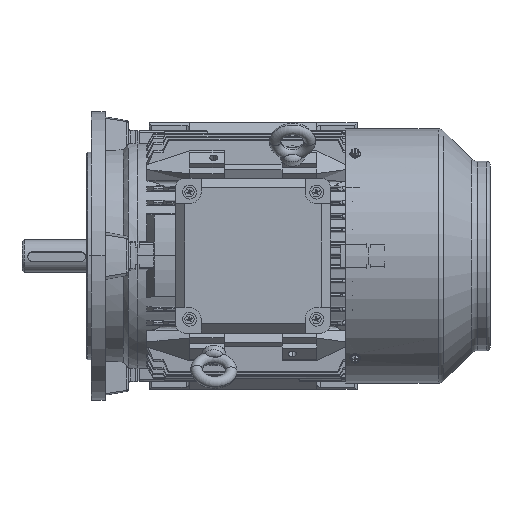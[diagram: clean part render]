
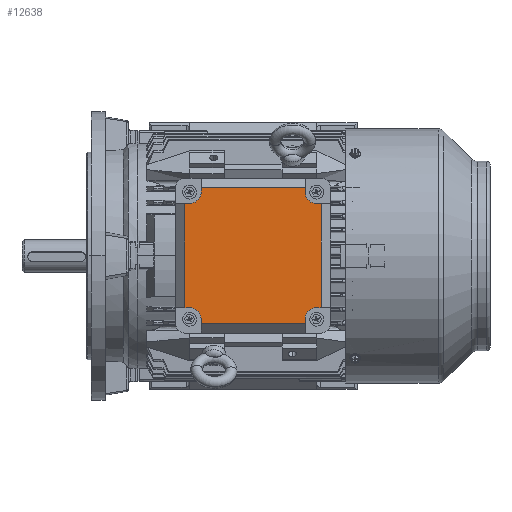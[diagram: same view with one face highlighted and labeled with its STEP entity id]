
A CAD part, top view. The second image highlights one B-rep face of the part: STEP entity #12638.
In plain terms, the highlighted planar face has unit normal (0, 0, 1).
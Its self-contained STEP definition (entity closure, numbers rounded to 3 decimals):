
#746 = LINE ( 'NONE', #131503, #126554 ) ;
#1313 = DIRECTION ( 'NONE',  ( 0., -1., 0. ) ) ;
#3126 = CARTESIAN_POINT ( 'NONE',  ( 93.235, 48.904, 176.622 ) ) ;
#4324 = CARTESIAN_POINT ( 'NONE',  ( -24.764, -41.098, 176.622 ) ) ;
#7966 = CARTESIAN_POINT ( 'NONE',  ( 79.236, -55.096, 176.622 ) ) ;
#10208 = VERTEX_POINT ( 'NONE', #4324 ) ;
#10461 = VECTOR ( 'NONE', #38898, 1000. ) ;
#10879 = CIRCLE ( 'NONE', #38480, 10. ) ;
#11013 = CARTESIAN_POINT ( 'NONE',  ( 89.234, 58.904, 176.622 ) ) ;
#11132 = ORIENTED_EDGE ( 'NONE', *, *, #104557, .F. ) ;
#12157 = CARTESIAN_POINT ( 'NONE',  ( 79.236, -51.096, 176.622 ) ) ;
#12638 = ADVANCED_FACE ( 'NONE', ( #91645 ), #49710, .T. ) ;
#13975 = LINE ( 'NONE', #3126, #108281 ) ;
#15392 = VERTEX_POINT ( 'NONE', #90190 ) ;
#15999 = CARTESIAN_POINT ( 'NONE',  ( -10.766, 62.902, 176.622 ) ) ;
#20741 = VECTOR ( 'NONE', #86647, 1000. ) ;
#21063 = CARTESIAN_POINT ( 'NONE',  ( -10.766, 58.902, 176.622 ) ) ;
#22721 = ORIENTED_EDGE ( 'NONE', *, *, #138395, .T. ) ;
#23781 = CARTESIAN_POINT ( 'NONE',  ( -20.765, 48.902, 176.622 ) ) ;
#24199 = DIRECTION ( 'NONE',  ( 0., -1., 0. ) ) ;
#25970 = AXIS2_PLACEMENT_3D ( 'NONE', #137104, #137813, #113326 ) ;
#26367 = VERTEX_POINT ( 'NONE', #120228 ) ;
#27338 = DIRECTION ( 'NONE',  ( -1., 0., 0. ) ) ;
#27623 = ORIENTED_EDGE ( 'NONE', *, *, #31238, .F. ) ;
#28071 = CARTESIAN_POINT ( 'NONE',  ( -20.764, -41.098, 176.622 ) ) ;
#28086 = EDGE_CURVE ( 'NONE', #77479, #32688, #104669, .T. ) ;
#29367 = AXIS2_PLACEMENT_3D ( 'NONE', #118217, #116780, #83511 ) ;
#30713 = VERTEX_POINT ( 'NONE', #84218 ) ;
#31238 = EDGE_CURVE ( 'NONE', #55663, #74462, #746, .T. ) ;
#31705 = VERTEX_POINT ( 'NONE', #15999 ) ;
#32474 = VERTEX_POINT ( 'NONE', #49241 ) ;
#32688 = VERTEX_POINT ( 'NONE', #85858 ) ;
#35001 = CARTESIAN_POINT ( 'NONE',  ( 79.236, -51.096, 176.622 ) ) ;
#35949 = LINE ( 'NONE', #12157, #41007 ) ;
#38480 = AXIS2_PLACEMENT_3D ( 'NONE', #125373, #62472, #71162 ) ;
#38711 = EDGE_CURVE ( 'NONE', #26367, #31705, #67321, .T. ) ;
#38898 = DIRECTION ( 'NONE',  ( 0., -1., 0. ) ) ;
#38985 = VECTOR ( 'NONE', #111929, 1000. ) ;
#39063 = EDGE_CURVE ( 'NONE', #30713, #121235, #65747, .T. ) ;
#39614 = LINE ( 'NONE', #28071, #40449 ) ;
#40449 = VECTOR ( 'NONE', #27338, 1000. ) ;
#40710 = CARTESIAN_POINT ( 'NONE',  ( -24.765, 48.902, 176.622 ) ) ;
#41007 = VECTOR ( 'NONE', #1313, 1000. ) ;
#44667 = VERTEX_POINT ( 'NONE', #129315 ) ;
#44949 = CARTESIAN_POINT ( 'NONE',  ( -10.766, 62.902, 176.622 ) ) ;
#47178 = DIRECTION ( 'NONE',  ( 0., 1., 0. ) ) ;
#48839 = CARTESIAN_POINT ( 'NONE',  ( 89.236, -41.096, 176.622 ) ) ;
#49241 = CARTESIAN_POINT ( 'NONE',  ( 89.235, 48.904, 176.622 ) ) ;
#49710 = PLANE ( 'NONE',  #25970 ) ;
#50105 = VERTEX_POINT ( 'NONE', #92176 ) ;
#54346 = DIRECTION ( 'NONE',  ( 0., 0., 1. ) ) ;
#55263 = LINE ( 'NONE', #99335, #134786 ) ;
#55663 = VERTEX_POINT ( 'NONE', #40710 ) ;
#55751 = VECTOR ( 'NONE', #127794, 1000. ) ;
#57165 = DIRECTION ( 'NONE',  ( -1., 0., 0. ) ) ;
#62472 = DIRECTION ( 'NONE',  ( 0., 0., 1. ) ) ;
#62887 = EDGE_CURVE ( 'NONE', #26367, #50105, #138546, .T. ) ;
#62906 = EDGE_CURVE ( 'NONE', #15392, #10208, #39614, .T. ) ;
#63443 = CARTESIAN_POINT ( 'NONE',  ( 79.234, 58.904, 176.622 ) ) ;
#65747 = LINE ( 'NONE', #86693, #38985 ) ;
#67035 = AXIS2_PLACEMENT_3D ( 'NONE', #11013, #54346, #111365 ) ;
#67321 = LINE ( 'NONE', #44949, #135687 ) ;
#68807 = AXIS2_PLACEMENT_3D ( 'NONE', #129074, #84289, #107412 ) ;
#70024 = LINE ( 'NONE', #125635, #88648 ) ;
#70175 = CARTESIAN_POINT ( 'NONE',  ( 89.235, 48.904, 176.622 ) ) ;
#71162 = DIRECTION ( 'NONE',  ( -1., 0., 0. ) ) ;
#71578 = LINE ( 'NONE', #70175, #93133 ) ;
#73053 = CARTESIAN_POINT ( 'NONE',  ( -10.764, -55.098, 176.622 ) ) ;
#74462 = VERTEX_POINT ( 'NONE', #23781 ) ;
#75329 = ORIENTED_EDGE ( 'NONE', *, *, #89082, .T. ) ;
#75656 = ORIENTED_EDGE ( 'NONE', *, *, #113419, .F. ) ;
#76528 = CARTESIAN_POINT ( 'NONE',  ( 79.236, -55.096, 176.622 ) ) ;
#77479 = VERTEX_POINT ( 'NONE', #73053 ) ;
#80333 = EDGE_CURVE ( 'NONE', #32474, #44667, #71578, .T. ) ;
#82064 = ORIENTED_EDGE ( 'NONE', *, *, #39063, .F. ) ;
#82864 = EDGE_LOOP ( 'NONE', ( #135134, #86452, #75656, #105020, #27623, #22721, #133142, #101554, #135717, #75329, #11132, #120100, #82064, #130165, #135093, #94689 ) ) ;
#83511 = DIRECTION ( 'NONE',  ( -1., 0., 0. ) ) ;
#83969 = LINE ( 'NONE', #76528, #20741 ) ;
#84218 = CARTESIAN_POINT ( 'NONE',  ( 93.236, -41.096, 176.622 ) ) ;
#84289 = DIRECTION ( 'NONE',  ( 0., 0., 1. ) ) ;
#85814 = EDGE_CURVE ( 'NONE', #74462, #107944, #10879, .T. ) ;
#85858 = CARTESIAN_POINT ( 'NONE',  ( -10.764, -51.098, 176.622 ) ) ;
#86452 = ORIENTED_EDGE ( 'NONE', *, *, #38711, .T. ) ;
#86647 = DIRECTION ( 'NONE',  ( 1., 0., 0. ) ) ;
#86693 = CARTESIAN_POINT ( 'NONE',  ( 89.236, -41.096, 176.622 ) ) ;
#87272 = EDGE_CURVE ( 'NONE', #121235, #102475, #142596, .T. ) ;
#87903 = VERTEX_POINT ( 'NONE', #7966 ) ;
#88648 = VECTOR ( 'NONE', #123512, 1000. ) ;
#89082 = EDGE_CURVE ( 'NONE', #77479, #87903, #83969, .T. ) ;
#90190 = CARTESIAN_POINT ( 'NONE',  ( -20.764, -41.098, 176.622 ) ) ;
#90219 = EDGE_CURVE ( 'NONE', #50105, #32474, #129317, .T. ) ;
#91645 = FACE_OUTER_BOUND ( 'NONE', #82864, .T. ) ;
#92176 = CARTESIAN_POINT ( 'NONE',  ( 79.234, 58.904, 176.622 ) ) ;
#93133 = VECTOR ( 'NONE', #125079, 1000. ) ;
#93392 = EDGE_CURVE ( 'NONE', #30713, #44667, #13975, .T. ) ;
#94689 = ORIENTED_EDGE ( 'NONE', *, *, #90219, .F. ) ;
#99335 = CARTESIAN_POINT ( 'NONE',  ( -24.764, -41.098, 176.622 ) ) ;
#101554 = ORIENTED_EDGE ( 'NONE', *, *, #103770, .F. ) ;
#102475 = VERTEX_POINT ( 'NONE', #35001 ) ;
#103770 = EDGE_CURVE ( 'NONE', #32688, #15392, #130836, .T. ) ;
#104557 = EDGE_CURVE ( 'NONE', #102475, #87903, #35949, .T. ) ;
#104669 = LINE ( 'NONE', #125664, #55751 ) ;
#105020 = ORIENTED_EDGE ( 'NONE', *, *, #85814, .F. ) ;
#107412 = DIRECTION ( 'NONE',  ( -1., 0., 0. ) ) ;
#107944 = VERTEX_POINT ( 'NONE', #21063 ) ;
#108281 = VECTOR ( 'NONE', #47178, 1000. ) ;
#111365 = DIRECTION ( 'NONE',  ( -1., 0., 0. ) ) ;
#111929 = DIRECTION ( 'NONE',  ( -1., 0., 0. ) ) ;
#113326 = DIRECTION ( 'NONE',  ( 0., 1., 0. ) ) ;
#113419 = EDGE_CURVE ( 'NONE', #107944, #31705, #70024, .T. ) ;
#116780 = DIRECTION ( 'NONE',  ( 0., 0., 1. ) ) ;
#118217 = CARTESIAN_POINT ( 'NONE',  ( -20.764, -51.098, 176.622 ) ) ;
#120100 = ORIENTED_EDGE ( 'NONE', *, *, #87272, .F. ) ;
#120228 = CARTESIAN_POINT ( 'NONE',  ( 79.234, 62.904, 176.622 ) ) ;
#121235 = VERTEX_POINT ( 'NONE', #48839 ) ;
#123512 = DIRECTION ( 'NONE',  ( 0., 1., 0. ) ) ;
#123524 = DIRECTION ( 'NONE',  ( 1., 0., 0. ) ) ;
#125079 = DIRECTION ( 'NONE',  ( 1., 0., 0. ) ) ;
#125373 = CARTESIAN_POINT ( 'NONE',  ( -20.766, 58.902, 176.622 ) ) ;
#125635 = CARTESIAN_POINT ( 'NONE',  ( -10.766, 58.902, 176.622 ) ) ;
#125664 = CARTESIAN_POINT ( 'NONE',  ( -10.764, -51.098, 176.622 ) ) ;
#126554 = VECTOR ( 'NONE', #123524, 1000. ) ;
#127794 = DIRECTION ( 'NONE',  ( 0., 1., 0. ) ) ;
#129074 = CARTESIAN_POINT ( 'NONE',  ( 89.236, -51.096, 176.622 ) ) ;
#129315 = CARTESIAN_POINT ( 'NONE',  ( 93.235, 48.904, 176.622 ) ) ;
#129317 = CIRCLE ( 'NONE', #67035, 10. ) ;
#130165 = ORIENTED_EDGE ( 'NONE', *, *, #93392, .T. ) ;
#130836 = CIRCLE ( 'NONE', #29367, 10. ) ;
#131503 = CARTESIAN_POINT ( 'NONE',  ( -20.765, 48.902, 176.622 ) ) ;
#133142 = ORIENTED_EDGE ( 'NONE', *, *, #62906, .F. ) ;
#134786 = VECTOR ( 'NONE', #24199, 1000. ) ;
#135093 = ORIENTED_EDGE ( 'NONE', *, *, #80333, .F. ) ;
#135134 = ORIENTED_EDGE ( 'NONE', *, *, #62887, .F. ) ;
#135687 = VECTOR ( 'NONE', #57165, 1000. ) ;
#135717 = ORIENTED_EDGE ( 'NONE', *, *, #28086, .F. ) ;
#137104 = CARTESIAN_POINT ( 'NONE',  ( -24.764, -55.098, 176.622 ) ) ;
#137813 = DIRECTION ( 'NONE',  ( 0., 0., 1. ) ) ;
#138395 = EDGE_CURVE ( 'NONE', #55663, #10208, #55263, .T. ) ;
#138546 = LINE ( 'NONE', #63443, #10461 ) ;
#142596 = CIRCLE ( 'NONE', #68807, 10. ) ;
